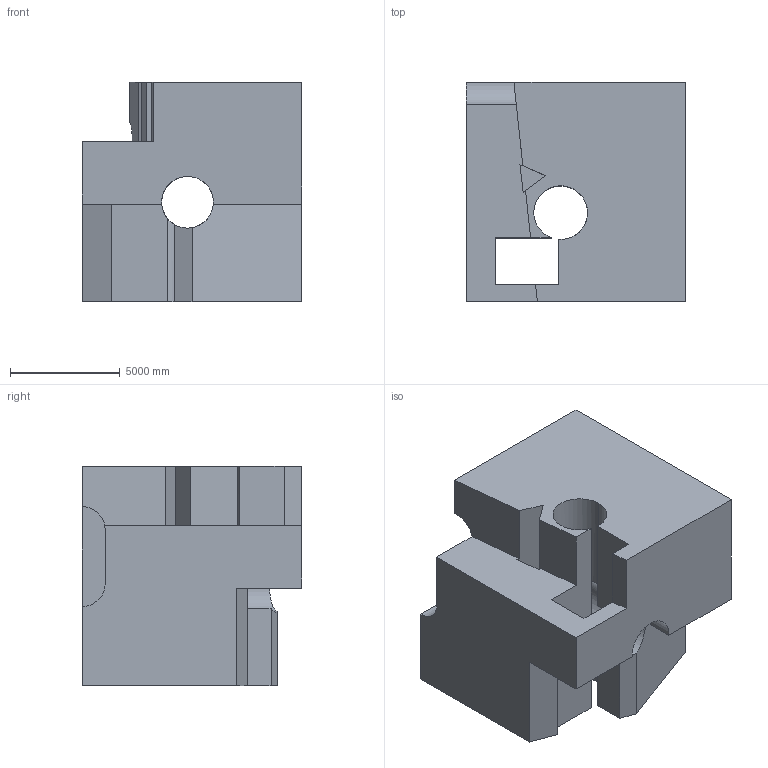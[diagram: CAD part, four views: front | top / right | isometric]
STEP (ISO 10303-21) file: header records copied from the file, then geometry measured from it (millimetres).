
FILE_DESCRIPTION (( 'STEP AP203' ), '1' );
FILE_NAME ('683.STEP', '2022-08-05T15:20:04', ( 'user' ), ( '' ), 'SwSTEP 2.0', 'SolidWorks 2021', '' );
FILE_SCHEMA (( 'CONFIG_CONTROL_DESIGN' ));
Length unit declared in the file: centimetre
Products named in the file (1): 683
Bounding box: 10000 x 10000 x 10000 mm (x, y, z)
Volume: 702375986422.4 mm3; surface area: 706397360 mm2
Topology: 1 solids, 1 shells, 37 faces, 117 edges, 78 vertices
Faces by surface type: plane 26, cylinder 11
Entity records: 1871 total; most frequent: CARTESIAN_POINT 762, ORIENTED_EDGE 234, DIRECTION 195, EDGE_CURVE 117, LINE 87, VECTOR 87, VERTEX_POINT 78, AXIS2_PLACEMENT_3D 54
